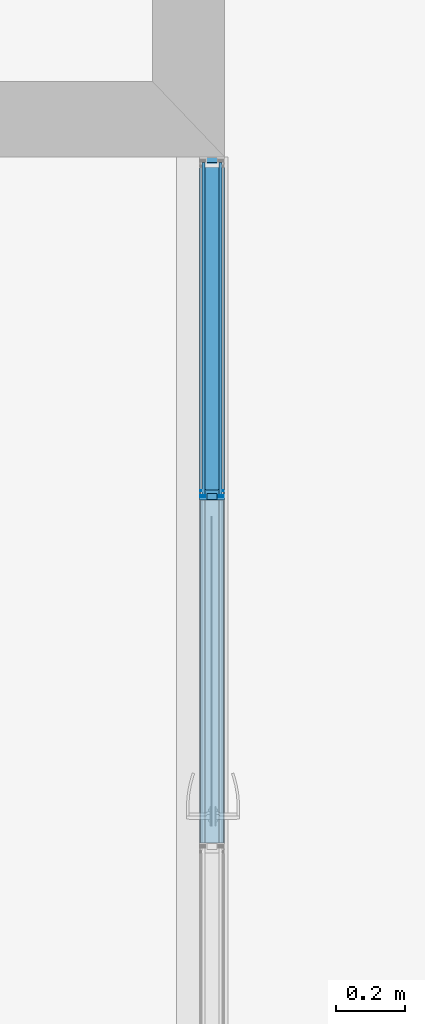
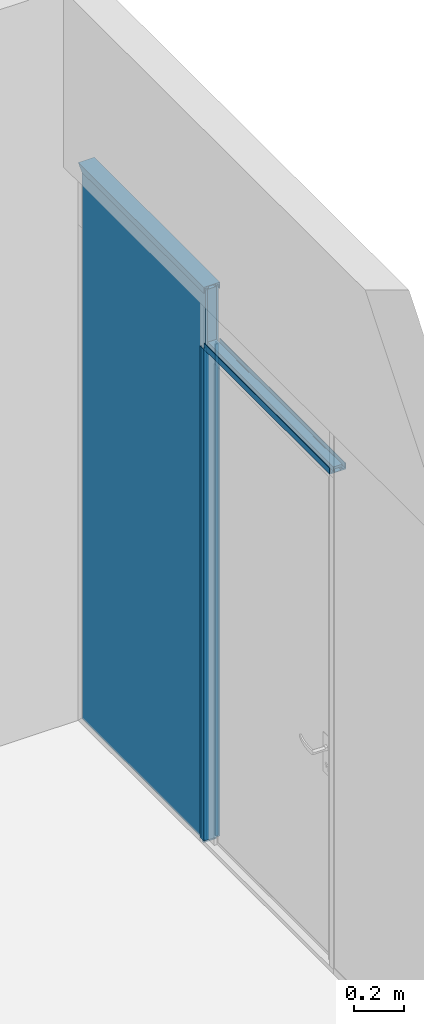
# One storey, part 35 of 65: 6 building element parts, 5 elements without a shape of their own.
"""IFC2X3 building model written with IfcOpenShell, lengths in millimetres."""

import ifcopenshell
import ifcopenshell.guid

model = None  # the IFC model being written
_history = None  # IfcOwnerHistory: only IFC2X3 demands one
_inside = {}  # id of a spatial element -> (the spatial element, [elements in it])
_under = {}  # id of a project, library or spatial element -> (it, [spatial elements below it])
_declared = {}  # id of a project -> (the project, [libraries it declares])
_typed = {}  # id of a type object -> (the type object, [elements of that type])
_made_of = {}  # id of a material, layer set ... -> (it, [elements and type objects made of it])


def new_model(schema):
    """Start an empty IFC model of exactly this schema.

    Asked for "IFC4X3", IfcOpenShell would pick the latest addendum, in which some entities
    have other attributes; the version numbers below select the first issue.
    IFC2X3 requires an IfcOwnerHistory on every rooted entity: one is made here for all.
    """
    global model, _history
    if schema == "IFC4X3":
        model = ifcopenshell.file(schema_version=(4, 3, 0, 0))
    else:
        model = ifcopenshell.file(schema=schema)
    _inside.clear()
    _under.clear()
    _declared.clear()
    _typed.clear()
    _made_of.clear()
    _history = None
    if model.schema == "IFC2X3":
        org = make("IfcOrganization", Name="unknown")
        user = make(
            "IfcPersonAndOrganization",
            ThePerson=make("IfcPerson", FamilyName="unknown"),
            TheOrganization=org,
        )
        app = make(
            "IfcApplication",
            ApplicationDeveloper=org,
            Version="unknown",
            ApplicationFullName="unknown",
            ApplicationIdentifier="unknown",
        )
        _history = make(
            "IfcOwnerHistory",
            OwningUser=user,
            OwningApplication=app,
            ChangeAction="ADDED",
            CreationDate=0,
        )
    return model


def make(cls, **values):
    """One entity of the class cls with the attributes given. An attribute that is None is left unset."""
    return model.create_entity(
        cls, **{name: value for name, value in values.items() if value is not None}
    )


def entity(cls, *values):
    """Any entity or typed value of the class cls, its attributes in the order of the schema. None: left unset."""
    e = model.create_entity(cls)
    for i, value in enumerate(values):
        if value is not None:
            e[i] = value
    return e


def rooted(cls, **values):
    """An entity with a GlobalId (a new one), such as an element, a storey or a relation."""
    return make(cls, GlobalId=ifcopenshell.guid.new(), OwnerHistory=_history, **values)


def si_unit(unit_type, name, prefix=None):
    """IfcSIUnit, for example si_unit("LENGTHUNIT", "METRE", prefix="MILLI")."""
    return make("IfcSIUnit", UnitType=unit_type, Prefix=prefix, Name=name)


def converted_unit(unit_type, name, factor, base, dimensions=None, offset=None):
    """IfcConversionBasedUnit, such as the inch: factor (a typed value) times the base unit."""
    return make(
        "IfcConversionBasedUnit"
        if offset is None
        else "IfcConversionBasedUnitWithOffset",
        ConversionOffset=offset,
        Dimensions=None
        if dimensions is None
        else entity("IfcDimensionalExponents", *dimensions),
        UnitType=unit_type,
        Name=name,
        ConversionFactor=make(
            "IfcMeasureWithUnit", ValueComponent=factor, UnitComponent=base
        ),
    )


def derived_unit(unit_type, elements):
    """IfcDerivedUnit: a product of units, each with its exponent."""
    return make(
        "IfcDerivedUnit",
        Elements=[
            make("IfcDerivedUnitElement", Unit=unit, Exponent=power)
            for unit, power in elements
        ],
        UnitType=unit_type,
    )


def money_unit(currency):
    """IfcMonetaryUnit."""
    return make("IfcMonetaryUnit", Currency=currency)


def assignment(units):
    """IfcUnitAssignment: the units of a project."""
    return None if units is None else make("IfcUnitAssignment", Units=units)


def point(xyz):
    """IfcCartesianPoint."""
    return None if xyz is None else make("IfcCartesianPoint", Coordinates=xyz)


def direction(xyz):
    """IfcDirection."""
    return None if xyz is None else make("IfcDirection", DirectionRatios=xyz)


def frame(location, z_axis=None, x_axis=None):
    """IfcAxis2Placement3D, a coordinate frame: its origin and axes. An axis left out is left unset."""
    return make(
        "IfcAxis2Placement3D",
        Location=point(location),
        Axis=direction(z_axis),
        RefDirection=direction(x_axis),
    )


def origin_with_axes():
    """The frame at (0, 0, 0) with the z axis (0, 0, 1) and the x axis (1, 0, 0) written out."""
    return frame((0.0, 0.0, 0.0), z_axis=(0.0, 0.0, 1.0), x_axis=(1.0, 0.0, 0.0))


def place(relative_to, where):
    """IfcLocalPlacement: puts the frame where relative to a parent placement (None: the world)."""
    return make(
        "IfcLocalPlacement", PlacementRelTo=relative_to, RelativePlacement=where
    )


def context(
    kind, dimensions, precision=None, world=None, true_north=None, identifier=None
):
    """IfcGeometricRepresentationContext, for example the 3D "Model" context."""
    return make(
        "IfcGeometricRepresentationContext",
        ContextIdentifier=identifier,
        ContextType=kind,
        CoordinateSpaceDimension=dimensions,
        Precision=precision,
        WorldCoordinateSystem=world,
        TrueNorth=true_north,
    )


def subcontext(parent, identifier, kind, view, scale=None):
    """IfcGeometricRepresentationSubContext, for example "Body" below "Model"."""
    return make(
        "IfcGeometricRepresentationSubContext",
        ContextIdentifier=identifier,
        ContextType=kind,
        ParentContext=parent,
        TargetScale=scale,
        TargetView=view,
    )


def project(units=None, contexts=None):
    """IfcProject with its units and contexts."""
    return rooted(
        "IfcProject",
        Name="project",
        RepresentationContexts=contexts,
        UnitsInContext=assignment(units),
    )


def spatial(cls, under=None, at=None, **own):
    """A site, building, storey or space (cls), placed at a placement, below another one or the project."""
    s = rooted(cls, ObjectPlacement=at, **own)
    if under is not None:
        _under.setdefault(under.id(), (under, []))[1].append(s)
    return s


def faces_of(points, faces, orient=None, outer=None):
    """IfcFace entities. A face is a list of loops; a loop is a list of indices into points, from 0.

    orient and outer hold one flag for each loop. By default every Orientation is true, the
    first loop of a face is its IfcFaceOuterBound and the others are IfcFaceBound.
    """
    made = []
    for i, loops in enumerate(faces):
        bounds = []
        for j, loop in enumerate(loops):
            is_outer = j == 0 if outer is None else outer[i][j]
            bounds.append(
                make(
                    "IfcFaceOuterBound" if is_outer else "IfcFaceBound",
                    Bound=make("IfcPolyLoop", Polygon=[points[k] for k in loop]),
                    Orientation=True if orient is None else orient[i][j],
                )
            )
        made.append(make("IfcFace", Bounds=bounds))
    return made


def faceted_brep(points, faces, orient=None, outer=None, voids=None):
    """IfcFacetedBrep: a solid bounded by flat faces; with voids (closed shells), ...WithVoids."""
    shared = [point(p) for p in points]
    hull = make("IfcClosedShell", CfsFaces=faces_of(shared, faces, orient, outer))
    if voids is None:
        return make("IfcFacetedBrep", Outer=hull)
    return make(
        "IfcFacetedBrepWithVoids",
        Outer=hull,
        Voids=[
            make(cls, CfsFaces=faces_of(shared, fs, o, b)) for cls, fs, o, b in voids
        ],
    )


def shape(context_of_items, identifier, shape_type, items):
    """IfcShapeRepresentation: the items that make up one representation, for example the "Body"."""
    return make(
        "IfcShapeRepresentation",
        ContextOfItems=context_of_items,
        RepresentationIdentifier=identifier,
        RepresentationType=shape_type,
        Items=items,
    )


def material(Name=None, Category=None):
    """IfcMaterial."""
    return make("IfcMaterial", Name=Name, Category=Category)


def made_of(thing, what):
    """Note that an element or type object is made of a material, layer set ...; save() writes the relation."""
    if what is not None:
        _made_of.setdefault(what.id(), (what, []))[1].append(thing)
    return thing


def type_object(cls, material=None, **own):
    """A type object (cls), such as IfcWallType, which elements share."""
    return made_of(rooted(cls, **own), material)


def element(
    cls,
    number,
    at=None,
    inside=None,
    cuts=None,
    type_object=None,
    material=None,
    context=None,
    identifier="Body",
    shape_type=None,
    held_by="IfcProductDefinitionShape",
    body=None,
    shapes=None,
    **own,
):
    """One element of the class cls, such as IfcWall. Its Tag is "e" and its number.

    at: its placement. inside: the storey or other place that contains it. cuts: it is an
    opening in that element (IfcRelVoidsElement). A single representation is given by context,
    identifier, shape_type and body (its items); several are given by shapes. held_by: the class
    of the entity that holds the representations. save() writes the other relations.
    """
    e = rooted(cls, Tag="e%d" % number, ObjectPlacement=at, **own)
    if body is not None:
        shapes = [shape(context, identifier, shape_type, body)]
    if shapes is not None:
        e.Representation = make(held_by, Representations=shapes)
    if inside is not None:
        _inside.setdefault(inside.id(), (inside, []))[1].append(e)
    if cuts is not None:
        rooted(
            "IfcRelVoidsElement", RelatingBuildingElement=cuts, RelatedOpeningElement=e
        )
    if type_object is not None:
        _typed.setdefault(type_object.id(), (type_object, []))[1].append(e)
    return made_of(e, material)


def aggregate(whole, parts):
    """IfcRelAggregates: a whole, such as a stair, and the parts it consists of."""
    return rooted("IfcRelAggregates", RelatingObject=whole, RelatedObjects=parts)


def save(model, path):
    """Write the relations noted so far, then the file.

    IfcRelAggregates (storeys below a building ...), IfcRelContainedInSpatialStructure (elements
    in a storey), IfcRelDefinesByType, IfcRelAssociatesMaterial and IfcRelDeclares: one each for
    every whole, place, type object, material and project.
    """
    for whole, parts in _under.values():
        aggregate(whole, parts)
    for where, things in _inside.values():
        rooted(
            "IfcRelContainedInSpatialStructure",
            RelatedElements=things,
            RelatingStructure=where,
        )
    for kind, things in _typed.values():
        rooted("IfcRelDefinesByType", RelatedObjects=things, RelatingType=kind)
    for what, things in _made_of.values():
        rooted("IfcRelAssociatesMaterial", RelatedObjects=things, RelatingMaterial=what)
    for by, libraries in _declared.values():
        rooted("IfcRelDeclares", RelatingContext=by, RelatedDefinitions=libraries)
    model.write(path)


model = new_model("IFC2X3")

# Units and contexts
model_context = context("Model", 3, precision=0.01, world=origin_with_axes(), true_north=direction((0.0, 1.0)))
body_context = subcontext(model_context, "Body", "Model", "MODEL_VIEW")
ifc_project = project(units=[si_unit("LENGTHUNIT", "METRE", prefix="MILLI"), si_unit("AREAUNIT", "SQUARE_METRE"), si_unit("VOLUMEUNIT", "CUBIC_METRE"), converted_unit("PLANEANGLEUNIT", "DEGREE", entity("IfcPlaneAngleMeasure", 0.0174532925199), si_unit("PLANEANGLEUNIT", "RADIAN"), dimensions=[0, 0, 0, 0, 0, 0, 0]), si_unit("SOLIDANGLEUNIT", "STERADIAN"), money_unit("EUR"), converted_unit("TIMEUNIT", "Year", entity("IfcTimeMeasure", 31556926.0), si_unit("TIMEUNIT", "SECOND"), dimensions=[0, 0, 1, 0, 0, 0, 0]), si_unit("MASSUNIT", "GRAM", prefix="KILO"), si_unit("THERMODYNAMICTEMPERATUREUNIT", "DEGREE_CELSIUS"), si_unit("LUMINOUSINTENSITYUNIT", "LUMEN"), si_unit("ENERGYUNIT", "JOULE", prefix="MEGA"), derived_unit("THERMALCONDUCTANCEUNIT", [(si_unit("POWERUNIT", "WATT"), 1), (si_unit("LENGTHUNIT", "METRE"), -1), (si_unit("THERMODYNAMICTEMPERATUREUNIT", "KELVIN"), -1)]), derived_unit("SPECIFICHEATCAPACITYUNIT", [(si_unit("ENERGYUNIT", "JOULE"), 1), (si_unit("MASSUNIT", "GRAM", prefix="KILO"), -1), (si_unit("THERMODYNAMICTEMPERATUREUNIT", "KELVIN"), -1)]), derived_unit("MASSDENSITYUNIT", [(si_unit("MASSUNIT", "GRAM", prefix="KILO"), 1), (si_unit("VOLUMEUNIT", "CUBIC_METRE"), -1)])], contexts=[model_context])

# Site, building, storey
site_placement = place(None, origin_with_axes())
site = spatial("IfcSite", under=ifc_project, at=site_placement, Name="Puškini 31, Narva", CompositionType="ELEMENT")
building_placement = place(site_placement, origin_with_axes())
building = spatial("IfcBuilding", under=site, at=building_placement, Name="Narva Riigigümnaasium", CompositionType="ELEMENT")
storey_placement = place(building_placement, frame((0.0, 0.0, -1320.0), z_axis=(0.0, 0.0, 1.0), x_axis=(1.0, 0.0, 0.0)))
storey = spatial("IfcBuildingStorey", under=building, at=storey_placement, Name="1.korrus -1.32", CompositionType="ELEMENT", Elevation=-1320.0)

# Curtain wall, plate, building element parts, members
curtain_wall_type = type_object("IfcCurtainWallType", Name="Curtain Wall Type", PredefinedType="NOTDEFINED")
curtain_wall_placement = place(storey_placement, frame((30362.9999948, 171898.750025, 0.0), z_axis=(0.0, 0.0, 1.0), x_axis=(1.0, 0.0, 0.0)))
curtain_wall = element("IfcCurtainWall", 1, at=curtain_wall_placement, inside=storey, type_object=curtain_wall_type, Name="G-SKLF-06")
plate_type = type_object("IfcPlateType", Name="Siseklaasfassaad - Klaas 983 x 285 x 10", PredefinedType="CURTAIN_PANEL")
plate_placement = place(curtain_wall_placement, frame((0.0, 2925.46433713, 1457.14285714), z_axis=(0.0, 0.0, 1.0), x_axis=(0.0, -1.0, 0.0)))
plate = element("IfcPlate", 2, at=plate_placement, type_object=plate_type, Name="G-SKLF-06-klaas", ObjectType="CURTAIN_PANEL")
ifc_material_1 = material(Name="VKR-05_Klaas")
building_element_part_1_placement = place(plate_placement, origin_with_axes())
building_element_part_1 = element("IfcBuildingElementPart", 3, at=building_element_part_1_placement, material=ifc_material_1, Name="VKR-05_Klaas", context=body_context, shape_type="Brep", body=[
    faceted_brep([(-550.785756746, -29.0, 1227.85712945), (431.714337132, -29.0, 1227.85712945), (431.714337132, -20.0, 1227.85712945), (-550.785756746, -20.0, 1227.85712945), (-550.785756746, -29.0, -1442.14284373), (402.214247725, -29.0, -1442.14284373), (402.214247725, -29.0, -1457.14285714), (416.714323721, -29.0, -1457.14285714), (416.714323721, -29.0, 942.857156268), (431.714337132, -29.0, 942.857156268), (431.714337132, -20.0, 942.857156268), (416.714323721, -20.0, 942.857156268), (416.714323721, -20.0, -1457.14285714), (402.214247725, -20.0, -1457.14285714), (402.214247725, -20.0, -1442.14284373), (-550.785756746, -20.0, -1442.14284373)], [[[0, 1, 2, 3]], [[0, 4, 5, 6, 7, 8, 9, 1]], [[1, 9, 10, 2]], [[3, 2, 10, 11, 12, 13, 14, 15]], [[4, 0, 3, 15]], [[5, 4, 15, 14]], [[6, 5, 14, 13]], [[7, 6, 13, 12]], [[8, 7, 12, 11]], [[9, 8, 11, 10]]]),
    faceted_brep([(-550.785756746, 20.0, 1227.85712945), (431.714337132, 20.0, 1227.85712945), (431.714337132, 29.0, 1227.85712945), (-550.785756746, 29.0, 1227.85712945), (-550.785756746, 20.0, -1442.14284373), (402.214247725, 20.0, -1442.14284373), (402.214247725, 20.0, -1457.14285714), (416.714323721, 20.0, -1457.14285714), (416.714323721, 20.0, 942.857156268), (431.714337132, 20.0, 942.857156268), (431.714337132, 29.0, 942.857156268), (416.714323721, 29.0, 942.857156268), (416.714323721, 29.0, -1457.14285714), (402.214247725, 29.0, -1457.14285714), (402.214247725, 29.0, -1442.14284373), (-550.785756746, 29.0, -1442.14284373)], [[[0, 1, 2, 3]], [[0, 4, 5, 6, 7, 8, 9, 1]], [[1, 9, 10, 2]], [[3, 2, 10, 11, 12, 13, 14, 15]], [[4, 0, 3, 15]], [[5, 4, 15, 14]], [[6, 5, 14, 13]], [[7, 6, 13, 12]], [[8, 7, 12, 11]], [[9, 8, 11, 10]]]),
])
ifc_material_2 = material(Name="VKR-06_Õhkvahe")
building_element_part_2_placement = place(plate_placement, origin_with_axes())
building_element_part_2 = element("IfcBuildingElementPart", 4, at=building_element_part_2_placement, material=ifc_material_2, Name="VKR-06_Õhkvahe", context=body_context, shape_type="Brep", body=[
    faceted_brep([(-550.785756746, -20.0, 1227.85712945), (431.714337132, -20.0, 1227.85712945), (431.714337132, 20.0, 1227.85712945), (-550.785756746, 20.0, 1227.85712945), (-550.785756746, -20.0, -1442.14284373), (402.214247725, -20.0, -1442.14284373), (402.214247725, -20.0, -1457.14285714), (416.714323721, -20.0, -1457.14285714), (416.714323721, -20.0, 942.857156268), (431.714337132, -20.0, 942.857156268), (431.714337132, 20.0, 942.857156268), (416.714323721, 20.0, 942.857156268), (416.714323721, 20.0, -1457.14285714), (402.214247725, 20.0, -1457.14285714), (402.214247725, 20.0, -1442.14284373), (-550.785756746, 20.0, -1442.14284373)], [[[0, 1, 2, 3]], [[0, 4, 5, 6, 7, 8, 9, 1]], [[1, 9, 10, 2]], [[3, 2, 10, 11, 12, 13, 14, 15]], [[4, 0, 3, 15]], [[5, 4, 15, 14]], [[6, 5, 14, 13]], [[7, 6, 13, 12]], [[8, 7, 12, 11]], [[9, 8, 11, 10]]]),
])
aggregate(plate, [building_element_part_1, building_element_part_2])
member_type_1 = type_object("IfcMemberType", Name="30 x 27", PredefinedType="MULLION")
member_1_placement = place(curtain_wall_placement, frame((0.0, 2493.75, 0.0), z_axis=(0.0, 0.0, 1.0), x_axis=(0.0, -1.0, 0.0)))
member_1 = element("IfcMember", 5, at=member_1_placement, type_object=member_type_1, Name="G-SKLF-06-raam", ObjectType="MULLION")
ifc_material_3 = material(Name="Klaasvill")
building_element_part_3_placement = place(member_1_placement, origin_with_axes())
building_element_part_3 = element("IfcBuildingElementPart", 6, at=building_element_part_3_placement, material=ifc_material_3, Name="Klaasvill", context=body_context, shape_type="Brep", body=[
    faceted_brep([(-7.49999990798, 20.000000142, 20.0), (-7.49999990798, 20.000000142, 2400.0), (-13.8499999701, 20.000000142, 2400.0), (-13.8499999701, 20.000000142, 20.0), (-7.49999990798, 34.0161444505, 20.0), (-7.49999990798, 34.0161444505, 2400.0), (-13.8499999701, 34.0161444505, 2400.0), (-13.8499999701, 34.0161444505, 20.0)], [[[0, 1, 2, 3]], [[4, 5, 1, 0]], [[2, 1, 5, 6]], [[3, 2, 6, 7]], [[3, 7, 4, 0]], [[7, 6, 5, 4]]]),
    faceted_brep([(-28.7655837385, 33.0385325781, 20.0), (-28.7655837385, 33.0385325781, 2400.0), (-24.987414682, 34.0161444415, 2400.0), (-24.987414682, 34.0161444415, 20.0), (-28.4955493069, 32.0307503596, 20.0), (-28.4955493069, 32.0307503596, 2400.0), (-27.75780152, 31.2930025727, 2400.0), (-26.7500193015, 31.0229681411, 2400.0), (-25.742237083, 31.2930025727, 2400.0), (-25.004489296, 32.0307503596, 2400.0), (-24.7344548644, 33.0385325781, 2400.0), (-24.7344548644, 33.0385325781, 20.0), (-25.004489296, 32.0307503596, 20.0), (-25.742237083, 31.2930025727, 20.0), (-26.7500193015, 31.0229681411, 20.0), (-27.75780152, 31.2930025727, 20.0)], [[[0, 1, 2, 3]], [[4, 5, 1, 0]], [[2, 1, 5, 6, 7, 8, 9, 10]], [[3, 2, 10, 11]], [[3, 11, 12, 13, 14, 15, 4, 0]], [[15, 6, 5, 4]], [[14, 7, 6, 15]], [[13, 8, 7, 14]], [[12, 9, 8, 13]], [[11, 10, 9, 12]]]),
    faceted_brep([(-13.8499999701, -34.0161445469, 20.0), (-13.8499999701, -34.0161445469, 2400.0), (-13.8499999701, -19.9999997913, 2400.0), (-13.8499999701, -19.9999997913, 20.0), (-7.49999990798, -34.0161445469, 20.0), (-7.49999990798, -34.0161445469, 2400.0), (-7.49999990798, -19.9999997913, 2400.0), (-7.49999990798, -19.9999997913, 20.0)], [[[0, 1, 2, 3]], [[4, 5, 1, 0]], [[2, 1, 5, 6]], [[3, 2, 6, 7]], [[3, 7, 4, 0]], [[7, 6, 5, 4]]]),
    faceted_brep([(-25.004489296, -32.0307503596, 20.0), (-25.004489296, -32.0307503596, 2400.0), (-24.987414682, -34.0161444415, 2400.0), (-24.987414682, -34.0161444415, 20.0), (-25.742237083, -31.2930025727, 20.0), (-25.742237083, -31.2930025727, 2400.0), (-26.7500193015, -31.0229681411, 2400.0), (-27.75780152, -31.2930025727, 2400.0), (-28.4955493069, -32.0307503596, 2400.0), (-28.7655837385, -33.0385325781, 2400.0), (-28.5126239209, -34.0161444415, 2400.0), (-28.5126239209, -34.0161444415, 20.0), (-28.7655837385, -33.0385325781, 20.0), (-28.4955493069, -32.0307503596, 20.0), (-27.75780152, -31.2930025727, 20.0), (-26.7500193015, -31.0229681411, 20.0)], [[[0, 1, 2, 3]], [[4, 5, 1, 0]], [[2, 1, 5, 6, 7, 8, 9, 10]], [[3, 2, 10, 11]], [[3, 11, 12, 13, 14, 15, 4, 0]], [[15, 6, 5, 4]], [[14, 7, 6, 15]], [[13, 8, 7, 14]], [[12, 9, 8, 13]], [[11, 10, 9, 12]]]),
])
ifc_material_4 = material(Name="Teras RAL7012")
building_element_part_4_placement = place(member_1_placement, origin_with_axes())
building_element_part_4 = element("IfcBuildingElementPart", 7, at=building_element_part_4_placement, material=ifc_material_4, Name="Teras RAL7012", context=body_context, shape_type="Brep", body=[
    faceted_brep([(-29.6000001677, -17.0000000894, 20.0), (-29.6000001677, -17.0000000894, 2400.0), (-29.6000001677, 17.0000000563, 2400.0), (-29.6000001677, 17.0000000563, 20.0), (3.28335792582e-07, -17.0000000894, 20.0), (3.28335792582e-07, -17.0000000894, 2400.0), (3.28335792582e-07, 17.0000000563, 2400.0), (-1.99999958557, -15.0000001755, 2400.0), (-18.8000001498, -15.0000001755, 2400.0), (-18.8000001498, 15.0000001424, 2400.0), (-1.99999958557, 15.0000001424, 2400.0), (3.28335792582e-07, 17.0000000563, 20.0), (-1.99999958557, -15.0000001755, 20.0), (-1.99999958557, 15.0000001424, 20.0), (-18.8000001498, 15.0000001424, 20.0), (-18.8000001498, -15.0000001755, 20.0)], [[[0, 1, 2, 3]], [[4, 5, 1, 0]], [[2, 1, 5, 6], [7, 8, 9, 10]], [[3, 2, 6, 11]], [[3, 11, 4, 0], [12, 13, 14, 15]], [[11, 6, 5, 4]], [[15, 8, 7, 12]], [[14, 9, 8, 15]], [[13, 10, 9, 14]], [[12, 7, 10, 13]]]),
    faceted_brep([(0.0, 37.0, 20.0), (0.0, 37.0, 2400.0), (0.0, 17.0, 2400.0), (0.0, 17.0, 20.0), (-30.0000193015, 37.0, 20.0), (-30.0000193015, 37.0, 2400.0), (-30.0000193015, 34.0161444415, 2400.0), (-28.5126239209, 34.0161444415, 2400.0), (-24.987414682, 34.0161444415, 2400.0), (-13.8499999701, 34.0161444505, 2400.0), (-7.49999999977, 34.0161444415, 2400.0), (-7.49999999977, 20.0, 2400.0), (-13.8499999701, 20.000000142, 2400.0), (-30.0000193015, 20.0, 2400.0), (-30.0000193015, 17.0, 2400.0), (-29.6000001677, 17.0000000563, 2400.0), (-29.6000001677, 17.0000000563, 20.0), (-30.0000193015, 17.0, 20.0), (-30.0000193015, 20.0, 20.0), (-13.8499999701, 20.000000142, 20.0), (-7.49999999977, 20.0, 20.0), (-7.49999999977, 34.0161444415, 20.0), (-13.8499999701, 34.0161444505, 20.0), (-24.987414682, 34.0161444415, 20.0), (-28.5126239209, 34.0161444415, 20.0), (-30.0000193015, 34.0161444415, 20.0)], [[[0, 1, 2, 3]], [[4, 5, 1, 0]], [[2, 1, 5, 6, 7, 8, 9, 10, 11, 12, 13, 14, 15]], [[3, 2, 15, 16]], [[3, 16, 17, 18, 19, 20, 21, 22, 23, 24, 25, 4, 0]], [[25, 6, 5, 4]], [[24, 7, 6, 25]], [[23, 8, 7, 24]], [[22, 9, 8, 23]], [[21, 10, 9, 22]], [[20, 11, 10, 21]], [[19, 12, 11, 20]], [[18, 13, 12, 19]], [[17, 14, 13, 18]], [[16, 15, 14, 17]]]),
    faceted_brep([(-29.6000001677, -17.0000000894, 20.0), (-29.6000001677, -17.0000000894, 2400.0), (0.0, -17.0, 2400.0), (0.0, -17.0, 20.0), (-30.0000193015, -17.0, 20.0), (-30.0000193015, -17.0, 2400.0), (-30.0000193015, -20.0, 2400.0), (-13.8499999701, -19.9999997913, 2400.0), (-7.49999999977, -20.0, 2400.0), (-7.49999999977, -34.0161444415, 2400.0), (-13.8499999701, -34.0161445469, 2400.0), (-24.987414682, -34.0161444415, 2400.0), (-28.5126239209, -34.0161444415, 2400.0), (-30.0000193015, -34.0161444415, 2400.0), (-30.0000193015, -37.0, 2400.0), (0.0, -37.0, 2400.0), (0.0, -37.0, 20.0), (-30.0000193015, -37.0, 20.0), (-30.0000193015, -34.0161444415, 20.0), (-28.5126239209, -34.0161444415, 20.0), (-24.987414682, -34.0161444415, 20.0), (-13.8499999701, -34.0161445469, 20.0), (-7.49999999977, -34.0161444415, 20.0), (-7.49999999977, -20.0, 20.0), (-13.8499999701, -19.9999997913, 20.0), (-30.0000193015, -20.0, 20.0)], [[[0, 1, 2, 3]], [[4, 5, 1, 0]], [[2, 1, 5, 6, 7, 8, 9, 10, 11, 12, 13, 14, 15]], [[3, 2, 15, 16]], [[3, 16, 17, 18, 19, 20, 21, 22, 23, 24, 25, 4, 0]], [[25, 6, 5, 4]], [[24, 7, 6, 25]], [[23, 8, 7, 24]], [[22, 9, 8, 23]], [[21, 10, 9, 22]], [[20, 11, 10, 21]], [[19, 12, 11, 20]], [[18, 13, 12, 19]], [[17, 14, 13, 18]], [[16, 15, 14, 17]]]),
])
aggregate(member_1, [building_element_part_3, building_element_part_4])
member_type_2 = type_object("IfcMemberType", Name="30 x 37", PredefinedType="MULLION")
member_2_placement = place(curtain_wall_placement, frame((0.0, 2493.75, 2700.0), z_axis=(0.0, 1.0, 0.0), x_axis=(0.0, 0.0, 1.0)))
member_2 = element("IfcMember", 8, at=member_2_placement, type_object=member_type_2, Name="G-SKLF-06-raam", ObjectType="MULLION")
building_element_part_5_placement = place(member_2_placement, origin_with_axes())
building_element_part_5 = element("IfcBuildingElementPart", 9, at=building_element_part_5_placement, material=ifc_material_4, Name="Teras RAL7012", context=body_context, shape_type="Brep", body=[
    faceted_brep([(0.0, -17.0000000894, 0.0), (0.0, -17.0000000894, 997.500089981), (-29.5999996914, -17.0000000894, 967.900090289), (-29.5999996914, -17.0000000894, 0.0), (0.0, 17.0000000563, 0.0), (0.0, 17.0000000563, 997.500089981), (-29.5999996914, 17.0000000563, 967.900090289), (-1.9999999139, 15.0000001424, 995.500090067), (-1.9999999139, -15.0000001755, 995.500090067), (-18.7999996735, -15.0000001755, 978.700090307), (-18.7999996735, 15.0000001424, 978.700090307), (-29.5999996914, 17.0000000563, 0.0), (-1.9999999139, 15.0000001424, 0.0), (-18.7999996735, 15.0000001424, 0.0), (-18.7999996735, -15.0000001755, 0.0), (-1.9999999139, -15.0000001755, 0.0)], [[[0, 1, 2, 3]], [[4, 5, 1, 0]], [[1, 5, 6, 2], [7, 8, 9, 10]], [[3, 2, 6, 11]], [[0, 3, 11, 4], [12, 13, 14, 15]], [[11, 6, 5, 4]], [[15, 8, 7, 12]], [[14, 9, 8, 15]], [[13, 10, 9, 14]], [[12, 7, 10, 13]]]),
    faceted_brep([(0.0, 17.0, 0.0), (0.0, 17.0, 997.500089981), (-29.5999996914, 17.0000000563, 967.900090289), (-29.5999996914, 17.0000000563, 0.0), (0.0, 37.0, 0.0), (0.0, 37.0, 997.500089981), (-30.0000193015, 37.0, 967.500070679), (-30.0000193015, 34.0161444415, 967.500070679), (-28.5126239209, 34.0161444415, 968.98746606), (-24.987414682, 34.0161444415, 972.512675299), (-13.8499999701, 34.0161444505, 983.65009001), (-7.49999999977, 34.0161444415, 990.000089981), (-7.49999999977, 20.0, 990.000089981), (-13.8499999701, 20.000000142, 983.65009001), (-30.0000193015, 20.0, 967.500070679), (-30.0000193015, 17.0, 967.500070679), (-30.0000193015, 17.0, 0.0), (-30.0000193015, 20.0, 0.0), (-13.8499999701, 20.000000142, 0.0), (-7.49999999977, 20.0, 0.0), (-7.49999999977, 34.0161444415, 0.0), (-13.8499999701, 34.0161444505, 0.0), (-24.987414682, 34.0161444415, 0.0), (-28.5126239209, 34.0161444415, 0.0), (-30.0000193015, 34.0161444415, 0.0), (-30.0000193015, 37.0, 0.0)], [[[0, 1, 2, 3]], [[4, 5, 1, 0]], [[1, 5, 6, 7, 8, 9, 10, 11, 12, 13, 14, 15, 2]], [[3, 2, 15, 16]], [[0, 3, 16, 17, 18, 19, 20, 21, 22, 23, 24, 25, 4]], [[25, 6, 5, 4]], [[24, 7, 6, 25]], [[23, 8, 7, 24]], [[22, 9, 8, 23]], [[21, 10, 9, 22]], [[20, 11, 10, 21]], [[19, 12, 11, 20]], [[18, 13, 12, 19]], [[17, 14, 13, 18]], [[16, 15, 14, 17]]]),
    faceted_brep([(0.0, -17.0, 0.0), (0.0, -17.0, 997.500089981), (0.0, -37.0, 997.500089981), (0.0, -37.0, 0.0), (-29.5999996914, -17.0000000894, 0.0), (-29.5999996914, -17.0000000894, 967.900090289), (-30.0000193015, -17.0, 967.500070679), (-30.0000193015, -20.0, 967.500070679), (-13.8499999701, -19.9999997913, 983.65009001), (-7.49999999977, -20.0, 990.000089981), (-7.49999999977, -34.0161444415, 990.000089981), (-13.8499999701, -34.0161445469, 983.65009001), (-24.987414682, -34.0161444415, 972.512675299), (-28.5126239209, -34.0161444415, 968.98746606), (-30.0000193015, -34.0161444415, 967.500070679), (-30.0000193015, -37.0, 967.500070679), (-30.0000193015, -37.0, 0.0), (-30.0000193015, -34.0161444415, 0.0), (-28.5126239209, -34.0161444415, 0.0), (-24.987414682, -34.0161444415, 0.0), (-13.8499999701, -34.0161445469, 0.0), (-7.49999999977, -34.0161444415, 0.0), (-7.49999999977, -20.0, 0.0), (-13.8499999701, -19.9999997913, 0.0), (-30.0000193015, -20.0, 0.0), (-30.0000193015, -17.0, 0.0)], [[[0, 1, 2, 3]], [[4, 5, 1, 0]], [[1, 5, 6, 7, 8, 9, 10, 11, 12, 13, 14, 15, 2]], [[3, 2, 15, 16]], [[0, 3, 16, 17, 18, 19, 20, 21, 22, 23, 24, 25, 4]], [[25, 6, 5, 4]], [[24, 7, 6, 25]], [[23, 8, 7, 24]], [[22, 9, 8, 23]], [[21, 10, 9, 22]], [[20, 11, 10, 21]], [[19, 12, 11, 20]], [[18, 13, 12, 19]], [[17, 14, 13, 18]], [[16, 15, 14, 17]]]),
])
aggregate(member_2, [building_element_part_5])
member_3_placement = place(curtain_wall_placement, frame((0.0, 1496.25, 2400.0), z_axis=(0.0, 1.0, 0.0), x_axis=(0.0, 0.0, 1.0)))
member_3 = element("IfcMember", 10, at=member_3_placement, type_object=member_type_1, Name="G-SKLF-06-raam", ObjectType="MULLION")
aggregate(curtain_wall, [member_1, member_2, member_3, plate])
building_element_part_6_placement = place(member_3_placement, origin_with_axes())
building_element_part_6 = element("IfcBuildingElementPart", 11, at=building_element_part_6_placement, material=ifc_material_4, Name="Teras RAL7012", context=body_context, shape_type="Brep", body=[
    faceted_brep([(0.0, -17.0000000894, 0.0), (29.5999996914, -17.0000000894, 0.0), (29.5999996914, -17.0000000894, 997.5), (0.0, -17.0000000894, 997.5), (0.0, 17.0000000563, 0.0), (29.5999996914, 17.0000000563, 0.0), (1.9999999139, 15.0000001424, 0.0), (1.9999999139, -15.0000001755, 0.0), (18.7999996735, -15.0000001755, 0.0), (18.7999996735, 15.0000001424, 0.0), (29.5999996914, 17.0000000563, 997.5), (0.0, 17.0000000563, 997.5), (1.9999999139, 15.0000001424, 997.5), (18.7999996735, 15.0000001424, 997.5), (18.7999996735, -15.0000001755, 997.5), (1.9999999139, -15.0000001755, 997.5)], [[[0, 1, 2, 3]], [[0, 4, 5, 1], [6, 7, 8, 9]], [[1, 5, 10, 2]], [[3, 2, 10, 11], [12, 13, 14, 15]], [[4, 0, 3, 11]], [[5, 4, 11, 10]], [[7, 6, 12, 15]], [[8, 7, 15, 14]], [[9, 8, 14, 13]], [[6, 9, 13, 12]]]),
    faceted_brep([(0.0, 17.0, 0.0), (29.5999996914, 17.0000000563, 0.0), (29.5999996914, 17.0000000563, 997.5), (0.0, 17.0, 997.5), (0.0, 37.0, 0.0), (30.0000193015, 37.0, 0.0), (30.0000193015, 34.0161444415, 0.0), (28.5126239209, 34.0161444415, 0.0), (24.987414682, 34.0161444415, 0.0), (13.8499999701, 34.0161444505, 0.0), (7.49999999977, 34.0161444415, 0.0), (7.49999999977, 20.0, 0.0), (13.8499999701, 20.000000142, 0.0), (30.0000193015, 20.0, 0.0), (30.0000193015, 17.0, 0.0), (30.0000193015, 17.0, 997.5), (30.0000193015, 20.0, 997.5), (13.8499999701, 20.000000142, 997.5), (7.49999999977, 20.0, 997.5), (7.49999999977, 34.0161444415, 997.5), (13.8499999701, 34.0161444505, 997.5), (24.987414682, 34.0161444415, 997.5), (28.5126239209, 34.0161444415, 997.5), (30.0000193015, 34.0161444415, 997.5), (30.0000193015, 37.0, 997.5), (0.0, 37.0, 997.5)], [[[0, 1, 2, 3]], [[0, 4, 5, 6, 7, 8, 9, 10, 11, 12, 13, 14, 1]], [[1, 14, 15, 2]], [[3, 2, 15, 16, 17, 18, 19, 20, 21, 22, 23, 24, 25]], [[4, 0, 3, 25]], [[5, 4, 25, 24]], [[6, 5, 24, 23]], [[7, 6, 23, 22]], [[8, 7, 22, 21]], [[9, 8, 21, 20]], [[10, 9, 20, 19]], [[11, 10, 19, 18]], [[12, 11, 18, 17]], [[13, 12, 17, 16]], [[14, 13, 16, 15]]]),
    faceted_brep([(0.0, -17.0, 0.0), (0.0, -37.0, 0.0), (0.0, -37.0, 997.5), (0.0, -17.0, 997.5), (29.5999996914, -17.0000000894, 0.0), (30.0000193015, -17.0, 0.0), (30.0000193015, -20.0, 0.0), (13.8499999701, -19.9999997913, 0.0), (7.49999999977, -20.0, 0.0), (7.49999999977, -34.0161444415, 0.0), (13.8499999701, -34.0161445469, 0.0), (24.987414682, -34.0161444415, 0.0), (28.5126239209, -34.0161444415, 0.0), (30.0000193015, -34.0161444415, 0.0), (30.0000193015, -37.0, 0.0), (30.0000193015, -37.0, 997.5), (30.0000193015, -34.0161444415, 997.5), (28.5126239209, -34.0161444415, 997.5), (24.987414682, -34.0161444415, 997.5), (13.8499999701, -34.0161445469, 997.5), (7.49999999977, -34.0161444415, 997.5), (7.49999999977, -20.0, 997.5), (13.8499999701, -19.9999997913, 997.5), (30.0000193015, -20.0, 997.5), (30.0000193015, -17.0, 997.5), (29.5999996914, -17.0000000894, 997.5)], [[[0, 1, 2, 3]], [[0, 4, 5, 6, 7, 8, 9, 10, 11, 12, 13, 14, 1]], [[1, 14, 15, 2]], [[3, 2, 15, 16, 17, 18, 19, 20, 21, 22, 23, 24, 25]], [[4, 0, 3, 25]], [[5, 4, 25, 24]], [[6, 5, 24, 23]], [[7, 6, 23, 22]], [[8, 7, 22, 21]], [[9, 8, 21, 20]], [[10, 9, 20, 19]], [[11, 10, 19, 18]], [[12, 11, 18, 17]], [[13, 12, 17, 16]], [[14, 13, 16, 15]]]),
])
aggregate(member_3, [building_element_part_6])

save(model, "model.ifc")
